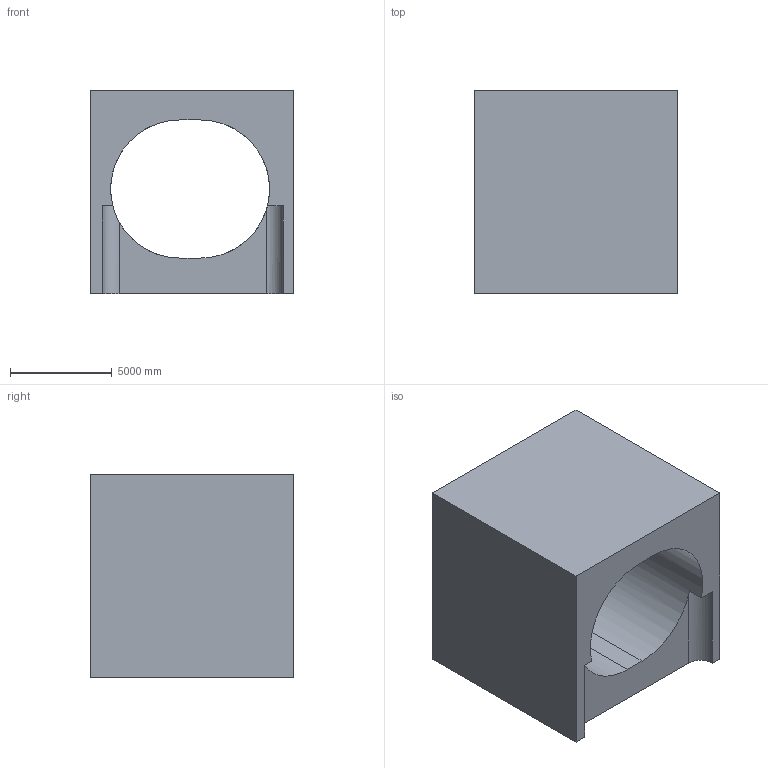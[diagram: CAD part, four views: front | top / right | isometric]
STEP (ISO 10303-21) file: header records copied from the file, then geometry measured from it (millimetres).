
FILE_DESCRIPTION (( 'STEP AP203' ), '1' );
FILE_NAME ('93.STEP', '2022-07-28T13:35:53', ( 'user' ), ( '' ), 'SwSTEP 2.0', 'SolidWorks 2021', '' );
FILE_SCHEMA (( 'CONFIG_CONTROL_DESIGN' ));
Length unit declared in the file: centimetre
Products named in the file (1): 93
Bounding box: 10000 x 10000 x 10000 mm (x, y, z)
Volume: 549717965706 mm3; surface area: 737008942.7 mm2
Topology: 1 solids, 1 shells, 15 faces, 42 edges, 28 vertices
Faces by surface type: plane 11, cylinder 4
Entity records: 583 total; most frequent: CARTESIAN_POINT 106, ORIENTED_EDGE 84, DIRECTION 82, EDGE_CURVE 42, VECTOR 30, LINE 30, VERTEX_POINT 28, AXIS2_PLACEMENT_3D 26
